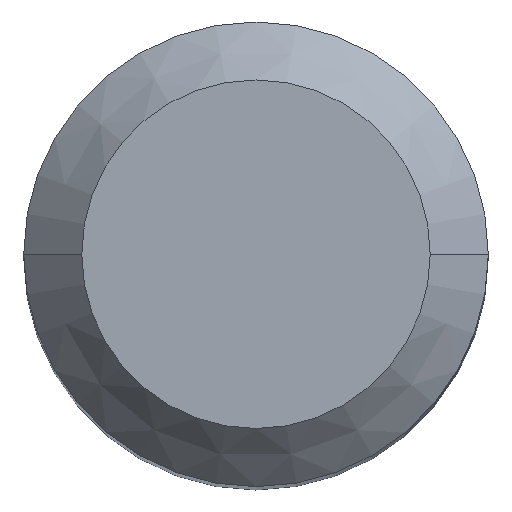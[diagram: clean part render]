
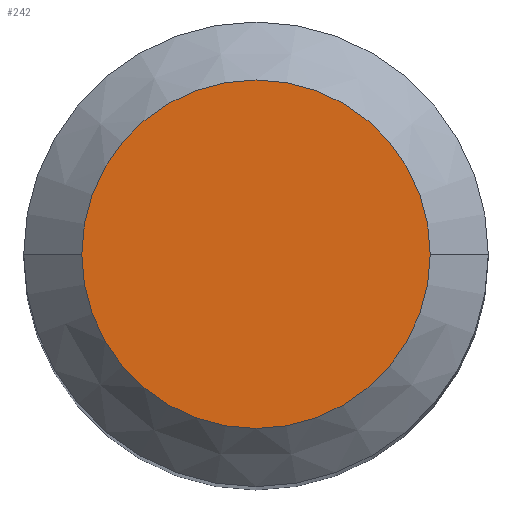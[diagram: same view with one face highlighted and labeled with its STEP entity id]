
A CAD part, top view. The second image highlights one B-rep face of the part: STEP entity #242.
In plain terms, the highlighted planar face has unit normal (0, 0, 1).
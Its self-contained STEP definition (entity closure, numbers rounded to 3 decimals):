
#15 = AXIS2_PLACEMENT_3D ( 'NONE', #253, #232, #235 ) ;
#37 = PLANE ( 'NONE',  #135 ) ;
#50 = CIRCLE ( 'NONE', #244, 3. ) ;
#91 = CARTESIAN_POINT ( 'NONE',  ( 3., 0., 35. ) ) ;
#95 = DIRECTION ( 'NONE',  ( 1., 0., 0. ) ) ;
#101 = VERTEX_POINT ( 'NONE', #252 ) ;
#111 = EDGE_CURVE ( 'NONE', #101, #128, #264, .T. ) ;
#114 = CARTESIAN_POINT ( 'NONE',  ( 0., 0., 35. ) ) ;
#128 = VERTEX_POINT ( 'NONE', #91 ) ;
#135 = AXIS2_PLACEMENT_3D ( 'NONE', #114, #199, #174 ) ;
#140 = CARTESIAN_POINT ( 'NONE',  ( 0., 0., 35. ) ) ;
#158 = ORIENTED_EDGE ( 'NONE', *, *, #200, .T. ) ;
#174 = DIRECTION ( 'NONE',  ( 1., 0., 0. ) ) ;
#199 = DIRECTION ( 'NONE',  ( 0., 0., 1. ) ) ;
#200 = EDGE_CURVE ( 'NONE', #128, #101, #50, .T. ) ;
#223 = FACE_OUTER_BOUND ( 'NONE', #224, .T. ) ;
#224 = EDGE_LOOP ( 'NONE', ( #250, #158 ) ) ;
#232 = DIRECTION ( 'NONE',  ( 0., 0., 1. ) ) ;
#235 = DIRECTION ( 'NONE',  ( 1., 0., 0. ) ) ;
#242 = ADVANCED_FACE ( 'NONE', ( #223 ), #37, .T. ) ;
#244 = AXIS2_PLACEMENT_3D ( 'NONE', #140, #265, #95 ) ;
#250 = ORIENTED_EDGE ( 'NONE', *, *, #111, .T. ) ;
#252 = CARTESIAN_POINT ( 'NONE',  ( -3., 0., 35. ) ) ;
#253 = CARTESIAN_POINT ( 'NONE',  ( 0., 0., 35. ) ) ;
#264 = CIRCLE ( 'NONE', #15, 3. ) ;
#265 = DIRECTION ( 'NONE',  ( 0., 0., 1. ) ) ;
